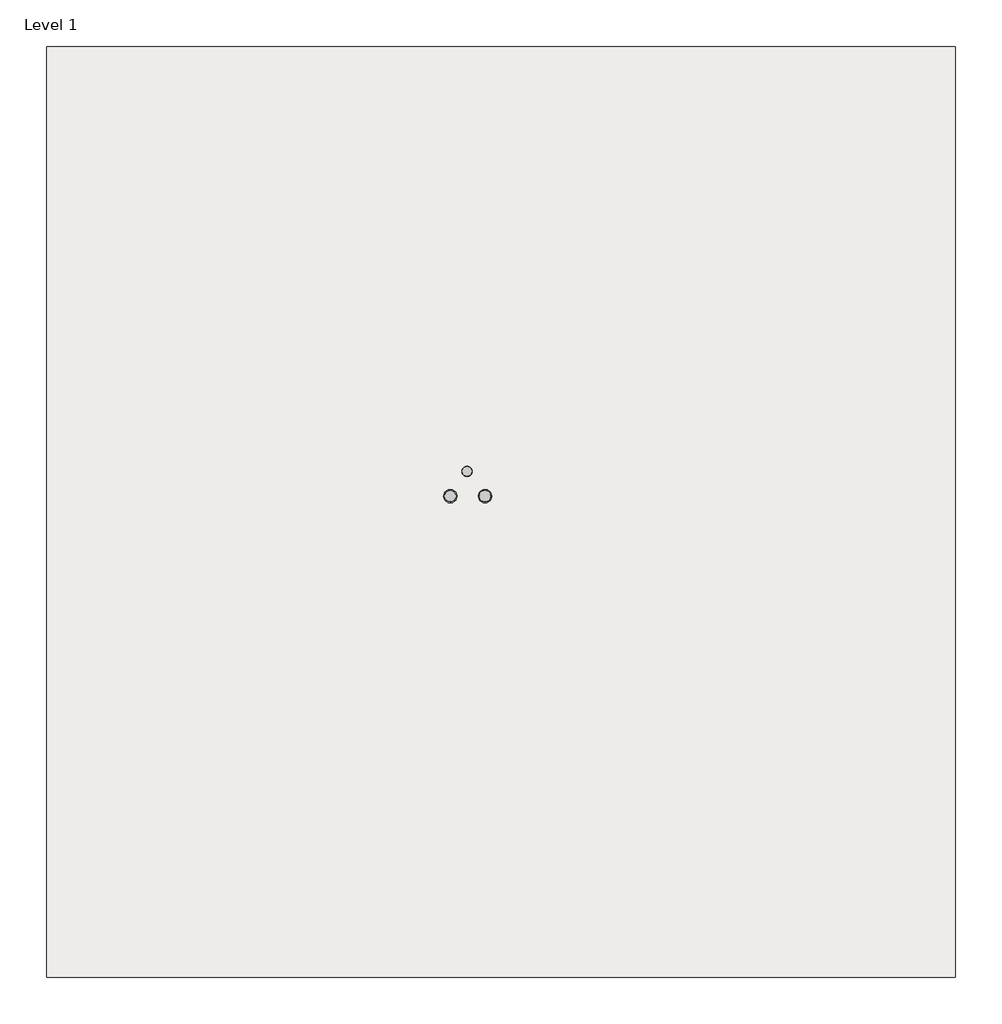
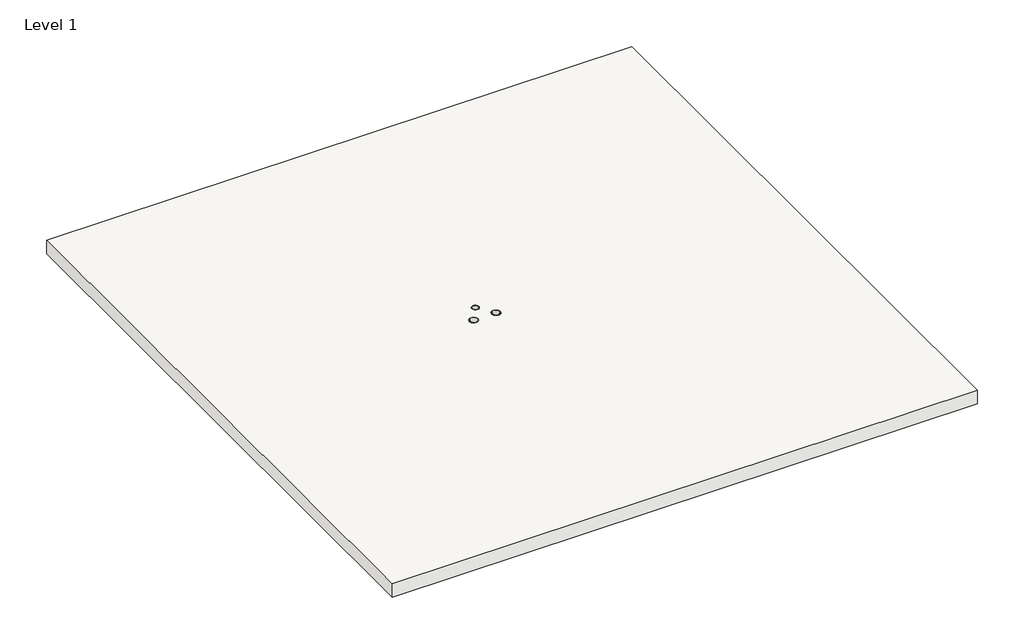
# One storey: 3 proxies, 1 slab.
"""IFC4 building model written with IfcOpenShell, lengths in millimetres."""

from ifc_helpers import new_model, si_unit, frame, origin, place, context, project, spatial, polyline, circle_curve, transform, mapped, element, save
from ifc_brep_helpers import plane_surface, revolved_surface, advanced_brep
from components import black_919d1eb7, gray_52ef3976

model = new_model("IFC4")

# Units and contexts
model_context = context("Model", 3, world=origin())
ifc_project = project(units=[si_unit("LENGTHUNIT", "METRE", prefix="MILLI")], contexts=[model_context])

# Site, building, storey
site = spatial("IfcSite", under=ifc_project)
building = spatial("IfcBuilding", under=site)
storey = spatial("IfcBuildingStorey", under=building, Name="Level 1", Elevation=0.0)

# Proxies
placement = place(None, origin())
black_shape = black_919d1eb7(model_context)
element("IfcBuildingElementProxy", 1, Name="Poke_Thru-Evolution_6AT_Series-Wiremold-Furniture_Feed : Black", ObjectType="Poke_Thru-Evolution_6AT_Series-Wiremold-Furniture_Feed : Black", at=placement, inside=storey, context=model_context, shape_type="MappedRepresentation", body=[
    mapped(black_shape, transform((-7711.4265586, -4729.4384938, 0.0), x_axis=(-1.0, 0.0, 0.0), y_axis=(0.0, -1.0, 0.0), z_axis=(0.0, 0.0, 1.0))),
])
element("IfcBuildingElementProxy", 2, Name="Poke_Thru-Evolution_6AT_Series-Wiremold-Furniture_Feed : Bronze", ObjectType="Poke_Thru-Evolution_6AT_Series-Wiremold-Furniture_Feed : Bronze", at=placement, inside=storey, context=model_context, shape_type="MappedRepresentation", body=[
    mapped(black_shape, transform((-7228.3679232, -4729.4384938, 0.0), x_axis=(1.0, 0.0, 0.0), y_axis=(0.0, 1.0, 0.0), z_axis=(0.0, 0.0, 1.0))),
])
gray_shape = gray_52ef3976(model_context)
element("IfcBuildingElementProxy", 3, Name="Poke_Thru-Evolution_6AT_Series-Wiremold-Furniture_Feed : Gray", ObjectType="Poke_Thru-Evolution_6AT_Series-Wiremold-Furniture_Feed : Gray", at=placement, inside=storey, context=model_context, shape_type="MappedRepresentation", body=[
    mapped(gray_shape, transform((-7478.0538923, -4385.4356111, 0.0), x_axis=(0.0, 1.0, 0.0), y_axis=(-1.0, 0.0, 0.0), z_axis=(0.0, 0.0, 1.0))),
])

# Slab
element("IfcSlab", 4, ObjectType="Generic - 12\"", at=placement, inside=storey, context=model_context, shape_type="AdvancedBrep", body=[
    advanced_brep(
    [(-684.3512413, 1527.3905092, -304.8), (-684.3512413, -11426.6094908, -304.8), (-13333.5512413, -11426.6094908, -304.8), (-13333.5512413, 1527.3905092, -304.8), (-684.3512413, -11426.6094908, 0.0), (-684.3512413, 1527.3905092, 0.0), (-13333.5512413, 1527.3905092, 0.0), (-13333.5512413, -11426.6094908, 0.0), (-7478.0538923, -4314.1213085, 0.0), (-7478.0538923, -4456.7499137, 0.0), (-7478.0538923, -4456.7499137, -12.7), (-7478.0538923, -4314.1213085, -12.7)],
    [
        (0, 1),
        (1, 2),
        (2, 3),
        (3, 0),
        (4, 5),
        (5, 6),
        (6, 7),
        (7, 4),
        (8, 9, circle_curve(frame((-7478.0538923, -4385.4356111, 0.0), z_axis=(0.0, 0.0, -1.0), x_axis=(0.0, 1.0, 0.0)), 71.3143026)),
        (9, 8, circle_curve(frame((-7478.0538923, -4385.4356111, 0.0), z_axis=(0.0, 0.0, -1.0), x_axis=(0.0, 1.0, 0.0)), 71.3143026)),
        (0, 5),
        (4, 1),
        (7, 2),
        (6, 3),
        (10, 11, circle_curve(frame((-7478.0538923, -4385.4356111, -12.7), z_axis=(0.0, 0.0, 1.0), x_axis=(0.0, 1.0, 0.0)), 71.3143026)),
        (11, 10, circle_curve(frame((-7478.0538923, -4385.4356111, -12.7), z_axis=(0.0, 0.0, 1.0), x_axis=(0.0, 1.0, 0.0)), 71.3143026)),
        (10, 9),
        (8, 11),
    ],
    [
        plane_surface(frame((-684.3512413, 1527.3905092, -304.8), z_axis=(0.0, 0.0, -1.0), x_axis=(0.0, -1.0, 0.0))),
        plane_surface(frame((-684.3512413, 1527.3905092, 0.0), z_axis=(0.0, 0.0, 1.0), x_axis=(0.0, 1.0, 0.0))),
        plane_surface(frame((-684.3512413, 1527.3905092, -304.8), z_axis=(1.0, 0.0, 0.0), x_axis=(0.0, 0.0, 1.0))),
        plane_surface(frame((-684.3512413, -11426.6094908, -304.8), z_axis=(0.0, -1.0, 0.0), x_axis=(0.0, 0.0, 1.0))),
        plane_surface(frame((-13333.5512413, -11426.6094908, -304.8), z_axis=(-1.0, 0.0, 0.0), x_axis=(0.0, 0.0, 1.0))),
        plane_surface(frame((-13333.5512413, 1527.3905092, -304.8), z_axis=(0.0, 1.0, 0.0), x_axis=(0.0, 0.0, 1.0))),
        plane_surface(frame((-7478.0538923, -4314.1213085, -12.7), z_axis=(0.0, 0.0, 1.0), x_axis=(1.0, 0.0, 0.0))),
        revolved_surface(polyline([(-7478.0538923, -4314.1213085, 0.0), (-7478.0538923, -4314.1213085, -12.7)]), (-7478.0538923, -4385.4356111, -12.7), (0.0, 0.0, 1.0)),
    ],
    [
        (0, [[1, 2, 3, 4]]),
        (1, [[5, 6, 7, 8], [9, 10]]),
        (2, [[-1, 11, -5, 12]]),
        (3, [[-2, -12, -8, 13]]),
        (4, [[-3, -13, -7, 14]]),
        (5, [[-4, -14, -6, -11]]),
        (6, [[15, 16]]),
        (7, [[-15, 17, -9, 18]]),
        (7, [[-16, -18, -10, -17]]),
    ],
),
])

save(model, "model.ifc")
